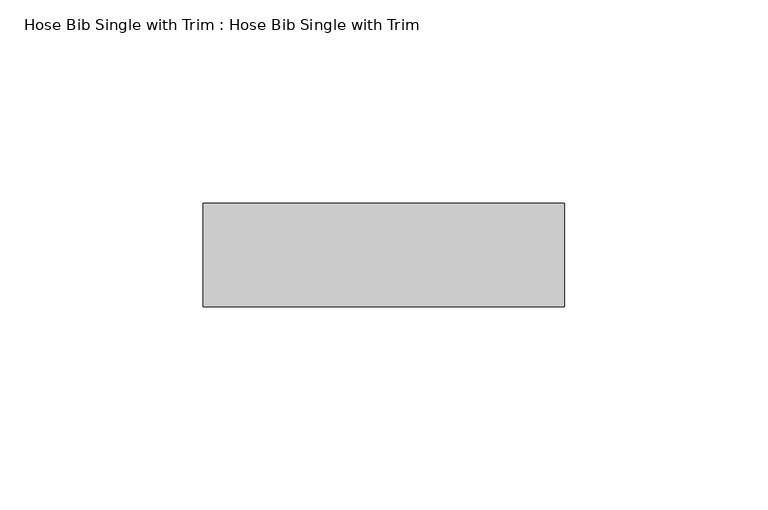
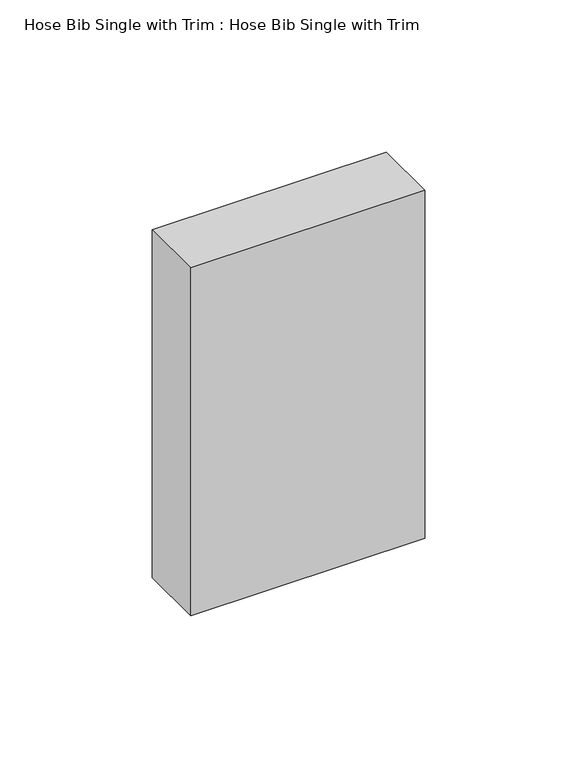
"""IFC4 building model written with IfcOpenShell, lengths in millimetres: flow terminal geometry, Hose Bib Single with Trim : Hose Bib Single with Trim."""

from ifc_helpers import new_model, si_unit, frame, origin, place, context, project, spatial, polyline, outline, extrude, source, transform, mapped, element, save


def hose_bib_single_with_trim_hose_bib_single_with_trim_27b6def0(model_context):
    return source(origin(), model_context, "Body", "SweptSolid", [
        extrude(outline(polyline([(-56.5685542, 104.775), (32.3314458, 104.775), (32.3314458, 79.375), (-56.5685542, 79.375), (-56.5685542, 104.775)])), frame((0.0, 0.0, 745.2457527), z_axis=(0.0, 0.0, 1.0), x_axis=(1.0, 0.0, 0.0)), (0.0, 0.0, 1.0), 139.7),
    ])


if __name__ == "__main__":
    model = new_model("IFC4")
    model_context = context("Model", 3, world=origin())
    ifc_project = project(units=[si_unit("LENGTHUNIT", "METRE", prefix="MILLI")], contexts=[model_context])
    site = spatial("IfcSite", under=ifc_project)
    building = spatial("IfcBuilding", under=site)
    placement = place(None, origin())
    hose_bib_single_with_trim_hose_bib_single_with_trim_shape = hose_bib_single_with_trim_hose_bib_single_with_trim_27b6def0(model_context)
    element("IfcFlowTerminal", 1, ObjectType="Hose Bib Single with Trim : Hose Bib Single with Trim", at=placement, inside=building, context=model_context, shape_type="MappedRepresentation", body=[
        mapped(hose_bib_single_with_trim_hose_bib_single_with_trim_shape, transform((0.0, 0.0, 0.0), x_axis=(1.0, 0.0, 0.0), y_axis=(0.0, 1.0, 0.0), z_axis=(0.0, 0.0, 1.0))),
    ])
    save(model, "model.ifc")
